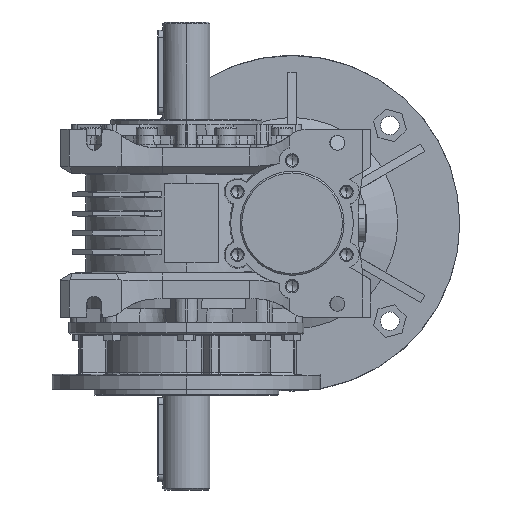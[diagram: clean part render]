
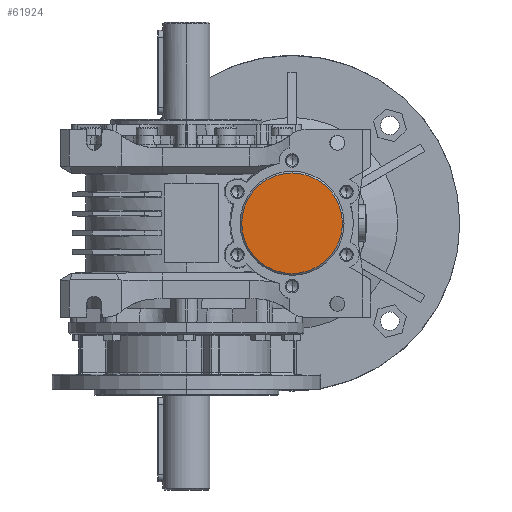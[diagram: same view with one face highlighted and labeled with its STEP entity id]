
A CAD part, left-side view. The second image highlights one B-rep face of the part: STEP entity #61924.
In plain terms, the highlighted planar face has unit normal (-1, 0, 0).
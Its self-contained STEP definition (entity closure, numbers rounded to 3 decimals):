
#3601 = ORIENTED_EDGE ( 'NONE', *, *, #66813, .T. ) ;
#10615 = AXIS2_PLACEMENT_3D ( 'NONE', #89362, #23555, #56972 ) ;
#12021 = DIRECTION ( 'NONE',  ( 0., 0., 1. ) ) ;
#16710 = VERTEX_POINT ( 'NONE', #22496 ) ;
#22496 = CARTESIAN_POINT ( 'NONE',  ( -75., -63., -30. ) ) ;
#23555 = DIRECTION ( 'NONE',  ( -1., 0., 0. ) ) ;
#30059 = AXIS2_PLACEMENT_3D ( 'NONE', #38496, #85407, #12021 ) ;
#37458 = DIRECTION ( 'NONE',  ( -1., 0., 0. ) ) ;
#38496 = CARTESIAN_POINT ( 'NONE',  ( -75., -63., 0. ) ) ;
#42810 = CIRCLE ( 'NONE', #87539, 30. ) ;
#44996 = CARTESIAN_POINT ( 'NONE',  ( -75., -63., 0. ) ) ;
#46556 = FACE_OUTER_BOUND ( 'NONE', #77350, .T. ) ;
#53215 = ORIENTED_EDGE ( 'NONE', *, *, #68836, .T. ) ;
#54758 = CARTESIAN_POINT ( 'NONE',  ( -75., -63., 30. ) ) ;
#56972 = DIRECTION ( 'NONE',  ( 0., 0., 1. ) ) ;
#57151 = CIRCLE ( 'NONE', #10615, 30. ) ;
#61924 = ADVANCED_FACE ( 'NONE', ( #46556 ), #85937, .T. ) ;
#66813 = EDGE_CURVE ( 'NONE', #16710, #91174, #42810, .T. ) ;
#68836 = EDGE_CURVE ( 'NONE', #91174, #16710, #57151, .T. ) ;
#70884 = DIRECTION ( 'NONE',  ( 0., 0., 1. ) ) ;
#77350 = EDGE_LOOP ( 'NONE', ( #3601, #53215 ) ) ;
#85407 = DIRECTION ( 'NONE',  ( -1., 0., 0. ) ) ;
#85937 = PLANE ( 'NONE',  #30059 ) ;
#87539 = AXIS2_PLACEMENT_3D ( 'NONE', #44996, #37458, #70884 ) ;
#89362 = CARTESIAN_POINT ( 'NONE',  ( -75., -63., 0. ) ) ;
#91174 = VERTEX_POINT ( 'NONE', #54758 ) ;
